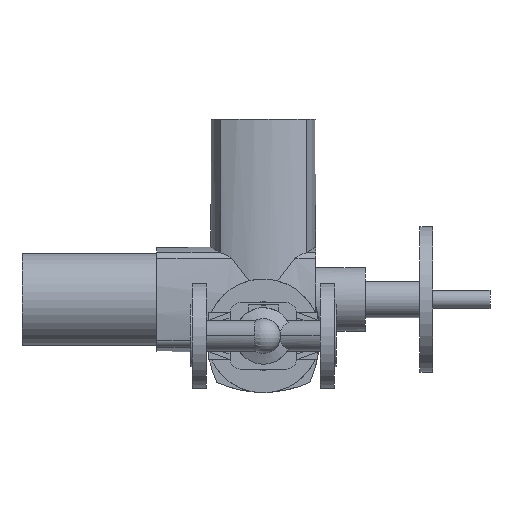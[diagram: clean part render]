
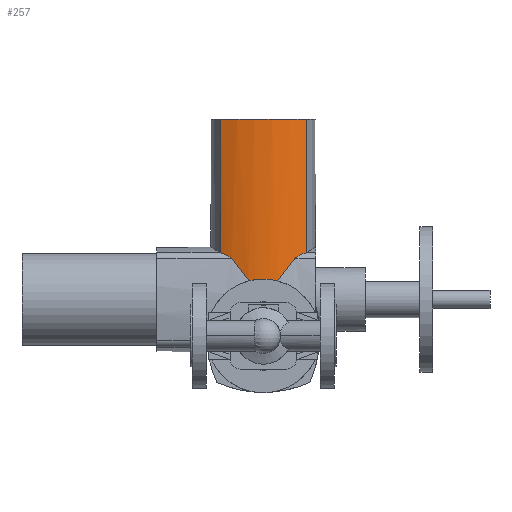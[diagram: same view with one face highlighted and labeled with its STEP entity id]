
A CAD part, front view. The second image highlights one B-rep face of the part: STEP entity #257.
In plain terms, the highlighted cylindrical face has radius 115 mm (diameter 230 mm), a partial arc.
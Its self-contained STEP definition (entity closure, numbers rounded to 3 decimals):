
#257 = ADVANCED_FACE( '', ( #683 ), #684, .T. );
#683 = FACE_OUTER_BOUND( '', #1240, .T. );
#684 = CYLINDRICAL_SURFACE( '', #1241, 115. );
#1240 = EDGE_LOOP( '', ( #2578, #2579, #2580, #2581, #2582, #2583, #2584, #2585 ) );
#1241 = AXIS2_PLACEMENT_3D( '', #2586, #2587, #2588 );
#2578 = ORIENTED_EDGE( '', *, *, #3983, .T. );
#2579 = ORIENTED_EDGE( '', *, *, #3964, .T. );
#2580 = ORIENTED_EDGE( '', *, *, #3921, .F. );
#2581 = ORIENTED_EDGE( '', *, *, #3968, .T. );
#2582 = ORIENTED_EDGE( '', *, *, #3956, .T. );
#2583 = ORIENTED_EDGE( '', *, *, #4000, .F. );
#2584 = ORIENTED_EDGE( '', *, *, #4001, .F. );
#2585 = ORIENTED_EDGE( '', *, *, #3991, .T. );
#2586 = CARTESIAN_POINT( '', ( 80., 476.5, 238. ) );
#2587 = DIRECTION( '', ( 0., 0., 1. ) );
#2588 = DIRECTION( '', ( -0.411, -0.911, 0. ) );
#3921 = EDGE_CURVE( '', #4812, #4814, #4815, .T. );
#3956 = EDGE_CURVE( '', #4881, #4878, #4882, .T. );
#3964 = EDGE_CURVE( '', #4893, #4814, #4894, .T. );
#3968 = EDGE_CURVE( '', #4812, #4881, #4899, .T. );
#3983 = EDGE_CURVE( '', #4920, #4893, #4925, .T. );
#3991 = EDGE_CURVE( '', #4936, #4920, #4937, .T. );
#4000 = EDGE_CURVE( '', #4951, #4878, #4952, .T. );
#4001 = EDGE_CURVE( '', #4936, #4951, #4953, .T. );
#4812 = VERTEX_POINT( '', #6413 );
#4814 = VERTEX_POINT( '', #6434 );
#4815 = B_SPLINE_CURVE_WITH_KNOTS( '', 3, ( #6435, #6436, #6437, #6438, #6439, #6440, #6441, #6442, #6443, #6444, #6445, #6446, #6447, #6448, #6449, #6450, #6451, #6452, #6453, #6454, #6455, #6456, #6457, #6458, #6459, #6460 ), .UNSPECIFIED., .F., .F., ( 4, 2, 2, 2, 2, 2, 2, 2, 2, 2, 2, 2, 4 ), ( 3.527, 7.084, 14.168, 21.252, 28.336, 35.421, 42.505, 49.589, 56.673, 63.757, 70.841, 77.925, 81.679 ), .UNSPECIFIED. );
#4878 = VERTEX_POINT( '', #6726 );
#4881 = VERTEX_POINT( '', #6736 );
#4882 = B_SPLINE_CURVE_WITH_KNOTS( '', 3, ( #6737, #6738, #6739, #6740, #6741, #6742, #6743, #6744, #6745, #6746, #6747, #6748, #6749, #6750 ), .UNSPECIFIED., .F., .F., ( 4, 2, 2, 2, 2, 2, 4 ), ( 20.679, 23.247, 24.859, 26.47, 29.694, 32.917, 35.031 ), .UNSPECIFIED. );
#4893 = VERTEX_POINT( '', #6781 );
#4894 = B_SPLINE_CURVE_WITH_KNOTS( '', 3, ( #6782, #6783, #6784, #6785, #6786, #6787, #6788, #6789 ), .UNSPECIFIED., .F., .F., ( 4, 2, 2, 4 ), ( 1.278, 13.675, 27.349, 30.271 ), .UNSPECIFIED. );
#4899 = B_SPLINE_CURVE_WITH_KNOTS( '', 3, ( #6812, #6813, #6814, #6815, #6816, #6817, #6818, #6819 ), .UNSPECIFIED., .F., .F., ( 4, 2, 2, 4 ), ( 24.427, 27.349, 41.024, 53.421 ), .UNSPECIFIED. );
#4920 = VERTEX_POINT( '', #6896 );
#4925 = B_SPLINE_CURVE_WITH_KNOTS( '', 3, ( #6909, #6910, #6911, #6912, #6913, #6914, #6915, #6916, #6917, #6918, #6919, #6920, #6921, #6922 ), .UNSPECIFIED., .F., .F., ( 4, 2, 2, 2, 2, 2, 4 ), ( 1.109, 3.223, 6.446, 9.67, 11.281, 12.893, 15.461 ), .UNSPECIFIED. );
#4936 = VERTEX_POINT( '', #6954 );
#4937 = LINE( '', #6955, #6956 );
#4951 = VERTEX_POINT( '', #6996 );
#4952 = LINE( '', #6997, #6998 );
#4953 = CIRCLE( '', #6999, 115. );
#6413 = CARTESIAN_POINT( '', ( 95.892, 362.603, 60.446 ) );
#6434 = CARTESIAN_POINT( '', ( 64.108, 362.603, 60.446 ) );
#6435 = CARTESIAN_POINT( '', ( 127.315, 371.685, 40.835 ) );
#6436 = CARTESIAN_POINT( '', ( 126.562, 371.344, 41.708 ) );
#6437 = CARTESIAN_POINT( '', ( 125.78, 371.001, 42.566 ) );
#6438 = CARTESIAN_POINT( '', ( 123.357, 369.972, 45.076 ) );
#6439 = CARTESIAN_POINT( '', ( 121.635, 369.284, 46.673 ) );
#6440 = CARTESIAN_POINT( '', ( 117.993, 367.94, 49.682 ) );
#6441 = CARTESIAN_POINT( '', ( 116.074, 367.284, 51.094 ) );
#6442 = CARTESIAN_POINT( '', ( 112.068, 366.042, 53.699 ) );
#6443 = CARTESIAN_POINT( '', ( 109.981, 365.455, 54.893 ) );
#6444 = CARTESIAN_POINT( '', ( 105.672, 364.38, 57.035 ) );
#6445 = CARTESIAN_POINT( '', ( 103.449, 363.892, 57.985 ) );
#6446 = CARTESIAN_POINT( '', ( 98.903, 363.041, 59.622 ) );
#6447 = CARTESIAN_POINT( '', ( 96.581, 362.677, 60.309 ) );
#6448 = CARTESIAN_POINT( '', ( 91.882, 362.091, 61.408 ) );
#6449 = CARTESIAN_POINT( '', ( 89.505, 361.869, 61.819 ) );
#6450 = CARTESIAN_POINT( '', ( 84.745, 361.573, 62.366 ) );
#6451 = CARTESIAN_POINT( '', ( 82.361, 361.5, 62.5 ) );
#6452 = CARTESIAN_POINT( '', ( 77.639, 361.5, 62.5 ) );
#6453 = CARTESIAN_POINT( '', ( 75.255, 361.573, 62.366 ) );
#6454 = CARTESIAN_POINT( '', ( 70.495, 361.869, 61.819 ) );
#6455 = CARTESIAN_POINT( '', ( 68.118, 362.091, 61.408 ) );
#6456 = CARTESIAN_POINT( '', ( 63.419, 362.677, 60.309 ) );
#6457 = CARTESIAN_POINT( '', ( 61.097, 363.041, 59.622 ) );
#6458 = CARTESIAN_POINT( '', ( 57.62, 363.692, 58.37 ) );
#6459 = CARTESIAN_POINT( '', ( 56.429, 363.935, 57.899 ) );
#6460 = CARTESIAN_POINT( '', ( 55.255, 364.194, 57.393 ) );
#6726 = CARTESIAN_POINT( '', ( 127.315, 371.685, 91.153 ) );
#6736 = CARTESIAN_POINT( '', ( 114.68, 366.854, 84.785 ) );
#6737 = CARTESIAN_POINT( '', ( 114.68, 366.854, 84.785 ) );
#6738 = CARTESIAN_POINT( '', ( 115.206, 367.02, 85.472 ) );
#6739 = CARTESIAN_POINT( '', ( 115.894, 367.243, 86.07 ) );
#6740 = CARTESIAN_POINT( '', ( 116.976, 367.606, 86.869 ) );
#6741 = CARTESIAN_POINT( '', ( 117.415, 367.756, 87.158 ) );
#6742 = CARTESIAN_POINT( '', ( 118.325, 368.073, 87.707 ) );
#6743 = CARTESIAN_POINT( '', ( 118.795, 368.24, 87.967 ) );
#6744 = CARTESIAN_POINT( '', ( 120.241, 368.766, 88.707 ) );
#6745 = CARTESIAN_POINT( '', ( 121.249, 369.147, 89.151 ) );
#6746 = CARTESIAN_POINT( '', ( 123.292, 369.954, 89.947 ) );
#6747 = CARTESIAN_POINT( '', ( 124.326, 370.38, 90.299 ) );
#6748 = CARTESIAN_POINT( '', ( 126.011, 371.103, 90.807 ) );
#6749 = CARTESIAN_POINT( '', ( 126.671, 371.394, 90.99 ) );
#6750 = CARTESIAN_POINT( '', ( 127.315, 371.685, 91.153 ) );
#6781 = CARTESIAN_POINT( '', ( 45.32, 366.854, 84.785 ) );
#6782 = CARTESIAN_POINT( '', ( 45.32, 366.854, 84.785 ) );
#6783 = CARTESIAN_POINT( '', ( 47.812, 366.066, 81.536 ) );
#6784 = CARTESIAN_POINT( '', ( 50.423, 365.334, 78.142 ) );
#6785 = CARTESIAN_POINT( '', ( 56.06, 363.978, 70.835 ) );
#6786 = CARTESIAN_POINT( '', ( 59.101, 363.373, 66.905 ) );
#6787 = CARTESIAN_POINT( '', ( 62.804, 362.791, 62.128 ) );
#6788 = CARTESIAN_POINT( '', ( 63.456, 362.694, 61.287 ) );
#6789 = CARTESIAN_POINT( '', ( 64.108, 362.603, 60.446 ) );
#6812 = CARTESIAN_POINT( '', ( 95.892, 362.603, 60.446 ) );
#6813 = CARTESIAN_POINT( '', ( 96.544, 362.694, 61.287 ) );
#6814 = CARTESIAN_POINT( '', ( 97.196, 362.791, 62.128 ) );
#6815 = CARTESIAN_POINT( '', ( 100.899, 363.373, 66.905 ) );
#6816 = CARTESIAN_POINT( '', ( 103.94, 363.978, 70.835 ) );
#6817 = CARTESIAN_POINT( '', ( 109.577, 365.334, 78.142 ) );
#6818 = CARTESIAN_POINT( '', ( 112.188, 366.066, 81.536 ) );
#6819 = CARTESIAN_POINT( '', ( 114.68, 366.854, 84.785 ) );
#6896 = CARTESIAN_POINT( '', ( 32.685, 371.685, 91.153 ) );
#6909 = CARTESIAN_POINT( '', ( 32.685, 371.685, 91.153 ) );
#6910 = CARTESIAN_POINT( '', ( 33.329, 371.394, 90.99 ) );
#6911 = CARTESIAN_POINT( '', ( 33.989, 371.103, 90.807 ) );
#6912 = CARTESIAN_POINT( '', ( 35.674, 370.38, 90.299 ) );
#6913 = CARTESIAN_POINT( '', ( 36.708, 369.954, 89.947 ) );
#6914 = CARTESIAN_POINT( '', ( 38.751, 369.147, 89.151 ) );
#6915 = CARTESIAN_POINT( '', ( 39.759, 368.765, 88.707 ) );
#6916 = CARTESIAN_POINT( '', ( 41.205, 368.24, 87.967 ) );
#6917 = CARTESIAN_POINT( '', ( 41.675, 368.073, 87.707 ) );
#6918 = CARTESIAN_POINT( '', ( 42.585, 367.756, 87.158 ) );
#6919 = CARTESIAN_POINT( '', ( 43.024, 367.606, 86.869 ) );
#6920 = CARTESIAN_POINT( '', ( 44.106, 367.243, 86.07 ) );
#6921 = CARTESIAN_POINT( '', ( 44.794, 367.02, 85.472 ) );
#6922 = CARTESIAN_POINT( '', ( 45.32, 366.854, 84.785 ) );
#6954 = CARTESIAN_POINT( '', ( 32.685, 371.685, 238. ) );
#6955 = CARTESIAN_POINT( '', ( 32.685, 371.685, 238. ) );
#6956 = VECTOR( '', #8359, 1. );
#6996 = CARTESIAN_POINT( '', ( 127.315, 371.685, 238. ) );
#6997 = CARTESIAN_POINT( '', ( 127.315, 371.685, 238. ) );
#6998 = VECTOR( '', #8375, 1. );
#6999 = AXIS2_PLACEMENT_3D( '', #8376, #8377, #8378 );
#8359 = DIRECTION( '', ( 0., 0., -1. ) );
#8375 = DIRECTION( '', ( 0., 0., -1. ) );
#8376 = CARTESIAN_POINT( '', ( 80., 476.5, 238. ) );
#8377 = DIRECTION( '', ( 0., 0., 1. ) );
#8378 = DIRECTION( '', ( -0.411, -0.911, 0. ) );
